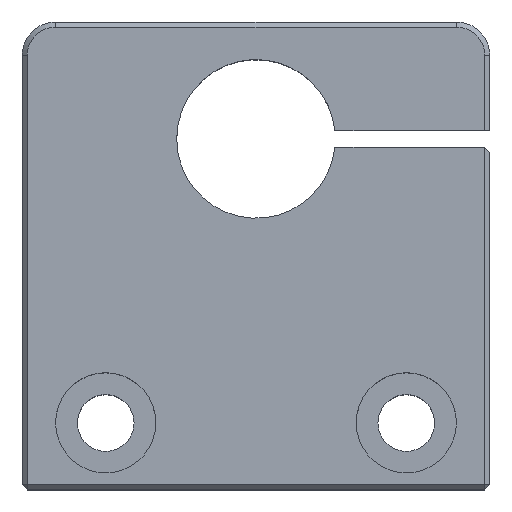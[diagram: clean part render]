
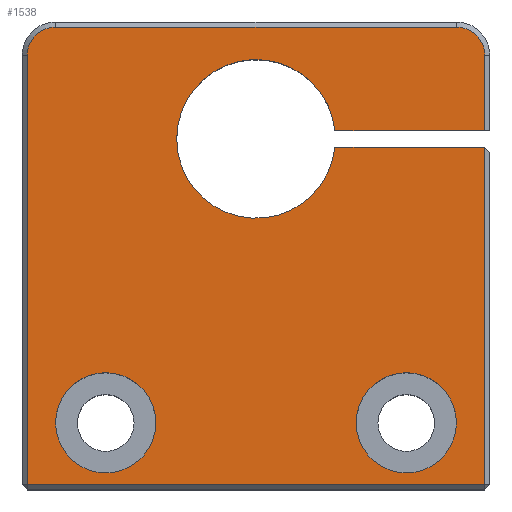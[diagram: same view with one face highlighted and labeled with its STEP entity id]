
A CAD part, top view. The second image highlights one B-rep face of the part: STEP entity #1538.
In plain terms, the highlighted planar face has unit normal (0, 0, 1).
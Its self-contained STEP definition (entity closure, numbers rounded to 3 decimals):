
#25 = CIRCLE ( 'NONE', #577, 1.7 ) ;
#41 = VERTEX_POINT ( 'NONE', #1000 ) ;
#50 = VERTEX_POINT ( 'NONE', #1428 ) ;
#55 = AXIS2_PLACEMENT_3D ( 'NONE', #1003, #1113, #1106 ) ;
#64 = ORIENTED_EDGE ( 'NONE', *, *, #310, .T. ) ;
#90 = AXIS2_PLACEMENT_3D ( 'NONE', #1564, #1692, #688 ) ;
#103 = DIRECTION ( 'NONE',  ( 1., 0., 0. ) ) ;
#113 = VERTEX_POINT ( 'NONE', #255 ) ;
#135 = CARTESIAN_POINT ( 'NONE',  ( 13.7, 8., 4.75 ) ) ;
#144 = AXIS2_PLACEMENT_3D ( 'NONE', #447, #846, #425 ) ;
#150 = DIRECTION ( 'NONE',  ( 1., 0., 0. ) ) ;
#155 = CARTESIAN_POINT ( 'NONE',  ( 4.724, 3.5, 4.75 ) ) ;
#194 = CARTESIAN_POINT ( 'NONE',  ( 13.7, 3.5, 4.75 ) ) ;
#196 = ORIENTED_EDGE ( 'NONE', *, *, #1610, .T. ) ;
#250 = DIRECTION ( 'NONE',  ( -1., 0., 0. ) ) ;
#255 = CARTESIAN_POINT ( 'NONE',  ( -13.7, 8., 4.75 ) ) ;
#258 = CARTESIAN_POINT ( 'NONE',  ( 4.724, 2.5, 4.75 ) ) ;
#259 = AXIS2_PLACEMENT_3D ( 'NONE', #408, #1630, #1606 ) ;
#262 = LINE ( 'NONE', #135, #1475 ) ;
#283 = ORIENTED_EDGE ( 'NONE', *, *, #1384, .F. ) ;
#290 = LINE ( 'NONE', #826, #439 ) ;
#295 = VERTEX_POINT ( 'NONE', #403 ) ;
#307 = VECTOR ( 'NONE', #1156, 1000. ) ;
#310 = EDGE_CURVE ( 'NONE', #113, #976, #290, .T. ) ;
#339 = ORIENTED_EDGE ( 'NONE', *, *, #1476, .F. ) ;
#343 = CARTESIAN_POINT ( 'NONE',  ( 0., -17.7, 4.75 ) ) ;
#354 = DIRECTION ( 'NONE',  ( 0., 0., 1. ) ) ;
#357 = LINE ( 'NONE', #1179, #1377 ) ;
#366 = VECTOR ( 'NONE', #997, 1000. ) ;
#371 = ORIENTED_EDGE ( 'NONE', *, *, #1352, .F. ) ;
#380 = DIRECTION ( 'NONE',  ( 0., 0., 1. ) ) ;
#394 = EDGE_CURVE ( 'NONE', #976, #1161, #453, .T. ) ;
#403 = CARTESIAN_POINT ( 'NONE',  ( 6., -14., 4.75 ) ) ;
#407 = CARTESIAN_POINT ( 'NONE',  ( 12., 8., 4.75 ) ) ;
#408 = CARTESIAN_POINT ( 'NONE',  ( 9., -14., 4.75 ) ) ;
#415 = CIRCLE ( 'NONE', #259, 3. ) ;
#425 = DIRECTION ( 'NONE',  ( 1., 0., 0. ) ) ;
#434 = CARTESIAN_POINT ( 'NONE',  ( -4.75, 3., 4.75 ) ) ;
#439 = VECTOR ( 'NONE', #1514, 1000. ) ;
#447 = CARTESIAN_POINT ( 'NONE',  ( -9., -14., 4.75 ) ) ;
#453 = LINE ( 'NONE', #343, #366 ) ;
#458 = CARTESIAN_POINT ( 'NONE',  ( -6., -14., 4.75 ) ) ;
#481 = ORIENTED_EDGE ( 'NONE', *, *, #533, .F. ) ;
#500 = VECTOR ( 'NONE', #1052, 1000. ) ;
#516 = CARTESIAN_POINT ( 'NONE',  ( 0., 0., 4.75 ) ) ;
#529 = AXIS2_PLACEMENT_3D ( 'NONE', #516, #380, #1604 ) ;
#533 = EDGE_CURVE ( 'NONE', #1031, #1467, #1557, .T. ) ;
#562 = ORIENTED_EDGE ( 'NONE', *, *, #1560, .F. ) ;
#567 = CARTESIAN_POINT ( 'NONE',  ( 13.7, 8., 4.75 ) ) ;
#577 = AXIS2_PLACEMENT_3D ( 'NONE', #407, #940, #807 ) ;
#614 = FACE_BOUND ( 'NONE', #1661, .T. ) ;
#640 = CIRCLE ( 'NONE', #1122, 3. ) ;
#644 = DIRECTION ( 'NONE',  ( 0., 0., 1. ) ) ;
#652 = DIRECTION ( 'NONE',  ( 0., 1., 0. ) ) ;
#659 = CARTESIAN_POINT ( 'NONE',  ( -13.7, -17.7, 4.75 ) ) ;
#677 = VERTEX_POINT ( 'NONE', #1203 ) ;
#688 = DIRECTION ( 'NONE',  ( 1., 0., 0. ) ) ;
#709 = AXIS2_PLACEMENT_3D ( 'NONE', #718, #354, #1601 ) ;
#718 = CARTESIAN_POINT ( 'NONE',  ( -9., -14., 4.75 ) ) ;
#722 = EDGE_CURVE ( 'NONE', #1744, #50, #1743, .T. ) ;
#731 = DIRECTION ( 'NONE',  ( -1., 0., 0. ) ) ;
#735 = ORIENTED_EDGE ( 'NONE', *, *, #394, .T. ) ;
#742 = PLANE ( 'NONE',  #529 ) ;
#759 = CARTESIAN_POINT ( 'NONE',  ( 12., -14., 4.75 ) ) ;
#761 = VERTEX_POINT ( 'NONE', #759 ) ;
#807 = DIRECTION ( 'NONE',  ( 1., 0., 0. ) ) ;
#826 = CARTESIAN_POINT ( 'NONE',  ( -13.7, -18., 4.75 ) ) ;
#837 = CARTESIAN_POINT ( 'NONE',  ( -12., -14., 4.75 ) ) ;
#846 = DIRECTION ( 'NONE',  ( 0., 0., 1. ) ) ;
#860 = CIRCLE ( 'NONE', #55, 4.75 ) ;
#894 = VERTEX_POINT ( 'NONE', #155 ) ;
#895 = CIRCLE ( 'NONE', #923, 1.7 ) ;
#904 = CARTESIAN_POINT ( 'NONE',  ( 9., -14., 4.75 ) ) ;
#912 = LINE ( 'NONE', #1462, #1700 ) ;
#923 = AXIS2_PLACEMENT_3D ( 'NONE', #941, #1516, #150 ) ;
#940 = DIRECTION ( 'NONE',  ( 0., 0., 1. ) ) ;
#941 = CARTESIAN_POINT ( 'NONE',  ( -12., 8., 4.75 ) ) ;
#976 = VERTEX_POINT ( 'NONE', #659 ) ;
#979 = ORIENTED_EDGE ( 'NONE', *, *, #722, .F. ) ;
#987 = EDGE_CURVE ( 'NONE', #1075, #1009, #262, .T. ) ;
#990 = EDGE_CURVE ( 'NONE', #1009, #41, #25, .T. ) ;
#997 = DIRECTION ( 'NONE',  ( 1., 0., 0. ) ) ;
#1000 = CARTESIAN_POINT ( 'NONE',  ( 12., 9.7, 4.75 ) ) ;
#1003 = CARTESIAN_POINT ( 'NONE',  ( 0., 3., 4.75 ) ) ;
#1009 = VERTEX_POINT ( 'NONE', #567 ) ;
#1011 = ORIENTED_EDGE ( 'NONE', *, *, #1361, .F. ) ;
#1015 = CARTESIAN_POINT ( 'NONE',  ( 13.7, -17.7, 4.75 ) ) ;
#1031 = VERTEX_POINT ( 'NONE', #837 ) ;
#1036 = FACE_BOUND ( 'NONE', #1116, .T. ) ;
#1051 = FACE_OUTER_BOUND ( 'NONE', #1544, .T. ) ;
#1052 = DIRECTION ( 'NONE',  ( 1., 0., 0. ) ) ;
#1070 = CIRCLE ( 'NONE', #144, 3. ) ;
#1075 = VERTEX_POINT ( 'NONE', #194 ) ;
#1106 = DIRECTION ( 'NONE',  ( 1., 0., 0. ) ) ;
#1113 = DIRECTION ( 'NONE',  ( 0., 0., 1. ) ) ;
#1116 = EDGE_LOOP ( 'NONE', ( #562, #1555 ) ) ;
#1122 = AXIS2_PLACEMENT_3D ( 'NONE', #904, #644, #103 ) ;
#1156 = DIRECTION ( 'NONE',  ( 0., 1., 0. ) ) ;
#1161 = VERTEX_POINT ( 'NONE', #1015 ) ;
#1179 = CARTESIAN_POINT ( 'NONE',  ( -12., 9.7, 4.75 ) ) ;
#1194 = EDGE_CURVE ( 'NONE', #1161, #50, #1710, .T. ) ;
#1202 = ORIENTED_EDGE ( 'NONE', *, *, #990, .T. ) ;
#1203 = CARTESIAN_POINT ( 'NONE',  ( -12., 9.7, 4.75 ) ) ;
#1252 = ORIENTED_EDGE ( 'NONE', *, *, #987, .T. ) ;
#1280 = EDGE_CURVE ( 'NONE', #295, #761, #415, .T. ) ;
#1298 = EDGE_CURVE ( 'NONE', #677, #113, #895, .T. ) ;
#1352 = EDGE_CURVE ( 'NONE', #1454, #1744, #860, .T. ) ;
#1361 = EDGE_CURVE ( 'NONE', #894, #1454, #1640, .T. ) ;
#1363 = ORIENTED_EDGE ( 'NONE', *, *, #1194, .T. ) ;
#1377 = VECTOR ( 'NONE', #731, 1000. ) ;
#1384 = EDGE_CURVE ( 'NONE', #1467, #1031, #1070, .T. ) ;
#1424 = ORIENTED_EDGE ( 'NONE', *, *, #1298, .T. ) ;
#1428 = CARTESIAN_POINT ( 'NONE',  ( 13.7, 2.5, 4.75 ) ) ;
#1454 = VERTEX_POINT ( 'NONE', #434 ) ;
#1462 = CARTESIAN_POINT ( 'NONE',  ( -4.5, 3.5, 4.75 ) ) ;
#1467 = VERTEX_POINT ( 'NONE', #458 ) ;
#1475 = VECTOR ( 'NONE', #652, 1000. ) ;
#1476 = EDGE_CURVE ( 'NONE', #1075, #894, #912, .T. ) ;
#1514 = DIRECTION ( 'NONE',  ( 0., -1., 0. ) ) ;
#1516 = DIRECTION ( 'NONE',  ( 0., 0., 1. ) ) ;
#1538 = ADVANCED_FACE ( 'NONE', ( #1051, #614, #1036 ), #742, .T. ) ;
#1544 = EDGE_LOOP ( 'NONE', ( #735, #1363, #979, #371, #1011, #339, #1252, #1202, #196, #1424, #64 ) ) ;
#1555 = ORIENTED_EDGE ( 'NONE', *, *, #1280, .F. ) ;
#1557 = CIRCLE ( 'NONE', #709, 3. ) ;
#1560 = EDGE_CURVE ( 'NONE', #761, #295, #640, .T. ) ;
#1564 = CARTESIAN_POINT ( 'NONE',  ( 0., 3., 4.75 ) ) ;
#1585 = CARTESIAN_POINT ( 'NONE',  ( -4.5, 2.5, 4.75 ) ) ;
#1601 = DIRECTION ( 'NONE',  ( 1., 0., 0. ) ) ;
#1603 = CARTESIAN_POINT ( 'NONE',  ( 13.7, 2.5, 4.75 ) ) ;
#1604 = DIRECTION ( 'NONE',  ( 1., 0., 0. ) ) ;
#1606 = DIRECTION ( 'NONE',  ( 1., 0., 0. ) ) ;
#1610 = EDGE_CURVE ( 'NONE', #41, #677, #357, .T. ) ;
#1630 = DIRECTION ( 'NONE',  ( 0., 0., 1. ) ) ;
#1640 = CIRCLE ( 'NONE', #90, 4.75 ) ;
#1661 = EDGE_LOOP ( 'NONE', ( #283, #481 ) ) ;
#1692 = DIRECTION ( 'NONE',  ( 0., 0., 1. ) ) ;
#1700 = VECTOR ( 'NONE', #250, 1000. ) ;
#1710 = LINE ( 'NONE', #1603, #307 ) ;
#1743 = LINE ( 'NONE', #1585, #500 ) ;
#1744 = VERTEX_POINT ( 'NONE', #258 ) ;
